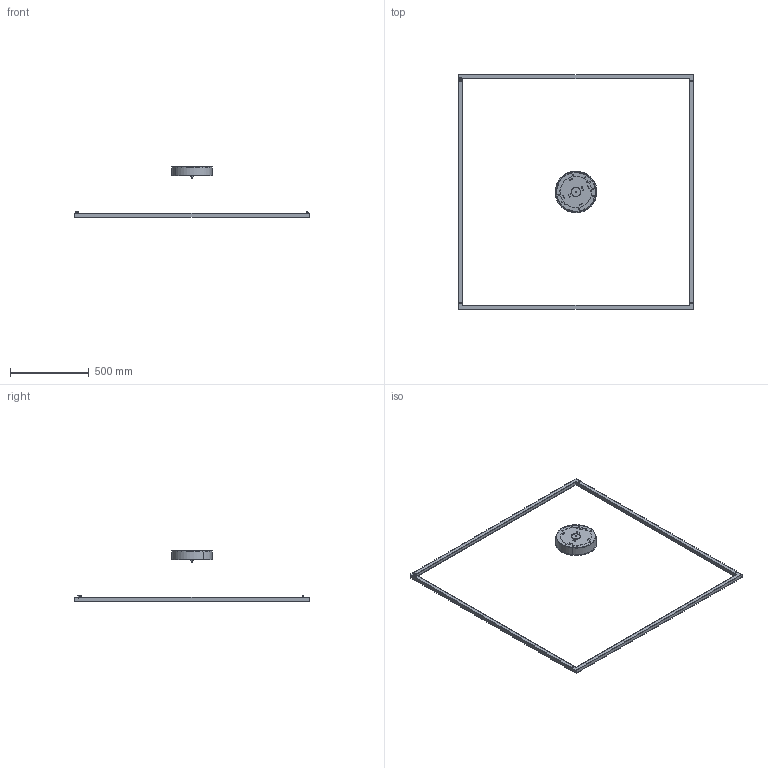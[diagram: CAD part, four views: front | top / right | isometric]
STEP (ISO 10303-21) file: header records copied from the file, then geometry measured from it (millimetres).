
FILE_DESCRIPTION (( 'STEP AP203' ), '1' );
FILE_NAME ('circus_1500_sq.STEP', '2020-04-02T07:29:03', ( '' ), ( '' ), 'SwSTEP 2.0', 'SolidWorks 2019', '' );
FILE_SCHEMA (( 'CONFIG_CONTROL_DESIGN' ));
Length unit declared in the file: millimetre
Products named in the file (1): circus_1500_sq
Bounding box: 1490 x 1490 x 321.78 mm (x, y, z)
Volume: 1247940 mm3; surface area: 1571697.1 mm2
Topology: 33 solids, 33 shells, 539 faces, 1211 edges, 764 vertices
Faces by surface type: plane 233, cylinder 232, cone 54, torus 20
Entity records: 15382 total; most frequent: DIRECTION 2831, CARTESIAN_POINT 2651, ORIENTED_EDGE 2422, EDGE_CURVE 1211, AXIS2_PLACEMENT_3D 1104, VERTEX_POINT 764, EDGE_LOOP 671, LINE 623
